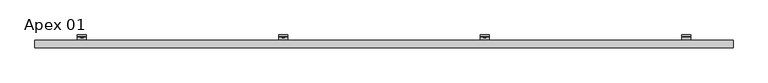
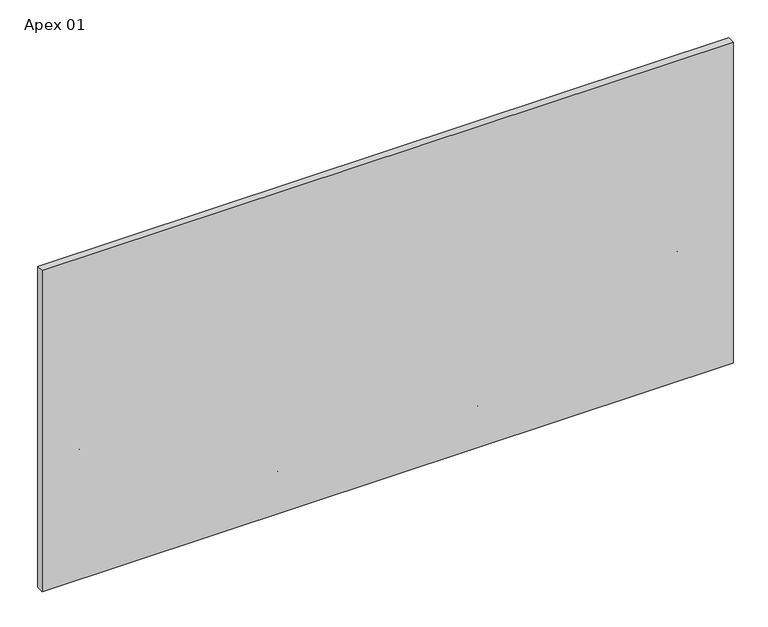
"""IFC4 building model written with IfcOpenShell, lengths in millimetres: plate geometry, Single-Panel-Perforated-Amico_Architectural : Apex 01."""

from ifc_helpers import new_model, si_unit, point, frame, frame_2d, origin, place, context, project, spatial, polyline, circle_curve, trimmed, segment, composite_curve, outline, extrude, source, transform, mapped, element, save
from ifc_brep_helpers import plane_surface, cylinder_surface, revolved_surface, advanced_brep


def apex_01_c70d3192(model_context):
    return source(origin(), model_context, "Body", "SolidModel", [
        advanced_brep(
        [(1289.05, -47.625, 560.1885535), (1289.05, -51.2819443, 552.5265211), (1289.05, -89.5163624, 525.7544933), (1289.05, -92.9330442, 529.1711751), (1289.05, -54.3526876, 556.1854316), (1289.05, -52.4002, 560.1886244), (1289.05, -52.4002, 594.3812386), (1289.05, -47.625, 594.3812386), (1327.15, -47.625, 560.1885535), (1327.15, -47.625, 594.3812386), (1327.15, -52.4002, 594.3812386), (1327.15, -52.4002, 560.1886244), (1327.15, -54.3526876, 556.1854316), (1327.15, -92.9330442, 529.1711751), (1327.15, -89.5163624, 525.7544933), (1327.15, -51.2819443, 552.5265211), (1314.8411889, -52.4002, 580.3360224), (1314.8411889, -52.4002, 573.9860224), (1298.6133287, -52.4002, 573.9860224), (1298.6133287, -52.4002, 580.3360224), (1314.8411889, -47.625, 573.9860224), (1314.8411889, -47.625, 580.3360224), (1298.6133287, -47.625, 580.3360224), (1298.6133287, -47.625, 573.9860224)],
        [
            (0, 1, circle_curve(frame((1289.05, -57.4802202, 560.1885535), z_axis=(-1.0, 0.0, 0.0), x_axis=(0.0, -1.0, 0.0)), 9.8552202)),
            (1, 2),
            (2, 3),
            (3, 4),
            (4, 5, circle_curve(frame((1289.05, -57.4803246, 560.1886244), z_axis=(1.0, 0.0, 0.0), x_axis=(0.0, -1.0, 0.0)), 5.0801246)),
            (5, 6),
            (6, 7),
            (7, 0),
            (8, 9),
            (9, 10),
            (10, 11),
            (11, 12, circle_curve(frame((1327.15, -57.4803246, 560.1886244), z_axis=(-1.0, 0.0, 0.0), x_axis=(0.0, -1.0, 0.0)), 5.0801246)),
            (12, 13),
            (13, 14),
            (14, 15),
            (15, 8, circle_curve(frame((1327.15, -57.4802202, 560.1885535), z_axis=(1.0, 0.0, 0.0), x_axis=(0.0, -1.0, 0.0)), 9.8552202)),
            (4, 12),
            (11, 5),
            (10, 6),
            (16, 17, circle_curve(frame((1314.8411889, -52.4002, 577.1610224), z_axis=(0.0, 1.0, 0.0), x_axis=(0.0, 0.0, -1.0)), 3.175)),
            (17, 18),
            (18, 19, circle_curve(frame((1298.6133287, -52.4002, 577.1610224), z_axis=(0.0, 1.0, 0.0), x_axis=(0.0, 0.0, -1.0)), 3.175)),
            (19, 16),
            (9, 7),
            (8, 0),
            (20, 21, circle_curve(frame((1314.8411889, -47.625, 577.1610224), z_axis=(0.0, -1.0, 0.0), x_axis=(0.0, 0.0, -1.0)), 3.175)),
            (21, 22),
            (22, 23, circle_curve(frame((1298.6133287, -47.625, 577.1610224), z_axis=(0.0, -1.0, 0.0), x_axis=(0.0, 0.0, -1.0)), 3.175)),
            (23, 20),
            (15, 1),
            (20, 17),
            (16, 21),
            (19, 22),
            (18, 23),
            (14, 2),
            (13, 3),
        ],
        [
            plane_surface(frame((1289.05, -67.3354404, 560.1885535), z_axis=(-1.0, 0.0, 0.0), x_axis=(0.0, 0.0, 1.0))),
            plane_surface(frame((1327.15, -67.3354404, 560.1885535), z_axis=(1.0, 0.0, 0.0), x_axis=(0.0, 0.0, -1.0))),
            revolved_surface(polyline([(1327.15, -62.5604492, 560.1886244), (1289.05, -62.5604492, 560.1886244)]), (1327.15, -57.4803246, 560.1886244), (1.0, 0.0, 0.0)),
            plane_surface(frame((1289.05, -52.4002, 560.1886244), z_axis=(0.0, -1.0, 0.0), x_axis=(1.0, 0.0, 0.0))),
            plane_surface(frame((1289.05, -52.4002, 594.3812386), z_axis=(0.0, 0.0, 1.0), x_axis=(1.0, 0.0, 0.0))),
            plane_surface(frame((1289.05, -47.625, 594.3812386), z_axis=(0.0, 1.0, 6.99569853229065e-12), x_axis=(1.0, 0.0, 0.0))),
            cylinder_surface(frame((1327.15, -57.4802202, 560.1885535), z_axis=(-1.0, 0.0, 0.0), x_axis=(0.0, -1.0, 0.0)), 9.8552202),
            revolved_surface(polyline([(1314.8411889, -52.4002, 573.9860224), (1314.8411889, -47.625, 573.9860224)]), (1314.8411889, -25.6669948, 577.1610224), (0.0, -1.0, 0.0)),
            plane_surface(frame((1314.8411889, -86.677982, 580.3360224), z_axis=(0.0, 0.0, -1.0), x_axis=(0.0, 1.0, 0.0))),
            revolved_surface(polyline([(1298.6133287, -52.4002, 573.9860224), (1298.6133287, -47.625, 573.9860224)]), (1298.6133287, -25.6669948, 577.1610224), (0.0, -1.0, 0.0)),
            plane_surface(frame((1298.6133287, -86.677982, 573.9860224), z_axis=(-2.7237733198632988e-11, 0.0, 1.0), x_axis=(0.0, 1.0, 0.0))),
            plane_surface(frame((1289.05, -51.2819443, 552.5265211), z_axis=(0.0, 0.5735764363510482, -0.8191520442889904), x_axis=(1.0, 0.0, 0.0))),
            plane_surface(frame((1289.05, -89.5163624, 525.7544933), z_axis=(0.0, -0.7071067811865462, -0.7071067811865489), x_axis=(1.0, 0.0, 0.0))),
            plane_surface(frame((1289.05, -92.9330442, 529.1711751), z_axis=(0.0, -0.5735764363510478, 0.8191520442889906), x_axis=(1.0, 0.0, 0.0))),
        ],
        [
            (0, [[1, 2, 3, 4, 5, 6, 7, 8]]),
            (1, [[9, 10, 11, 12, 13, 14, 15, 16]]),
            (2, [[-5, 17, -12, 18]]),
            (3, [[-6, -18, -11, 19], [20, 21, 22, 23]]),
            (4, [[-7, -19, -10, 24]]),
            (5, [[-8, -24, -9, 25], [26, 27, 28, 29]]),
            (6, [[-1, -25, -16, 30]]),
            (7, [[31, -20, 32, -26]]),
            (8, [[-32, -23, 33, -27]]),
            (9, [[-33, -22, 34, -28]]),
            (10, [[-31, -29, -34, -21]]),
            (11, [[-2, -30, -15, 35]]),
            (12, [[-3, -35, -14, 36]]),
            (13, [[-4, -36, -13, -17]]),
        ],
    ),
        extrude(outline(polyline([(577.3378656, 431.0153368), (572.9921531, 433.524335), (572.9921531, 438.5423316), (577.3378656, 441.0513299), (581.6835781, 438.5423316), (581.6835781, 433.524335), (577.3378656, 431.0153368)])), frame((0.0, -58.7607779, 0.0), z_axis=(0.0, 1.0, 0.0), x_axis=(0.0, 0.0, 1.0)), (0.0, 0.0, 1.0), 11.1357779),
        extrude(outline(composite_curve([segment(trimmed(circle_curve(frame_2d((577.4311726, 436.0333333)), 6.35), [point((577.4311726, 442.3833333))], [point((577.4311726, 429.6833333))], False, "CARTESIAN"), True, "CONTINUOUS"), segment(trimmed(circle_curve(frame_2d((577.4311726, 436.0333333)), 6.35), [point((577.4311726, 429.6833333))], [point((577.4311726, 442.3833333))], False, "CARTESIAN"), True, "CONTINUOUS")], self_intersect=False)), frame((0.0, -57.0817743, 0.0), z_axis=(0.0, 1.0, 0.0), x_axis=(0.0, 0.0, 1.0)), (0.0, 0.0, 1.0), 9.4567743),
        advanced_brep(
        [(416.9833333, -47.625, 560.1885535), (416.9833333, -51.2819443, 552.5265211), (416.9833333, -89.5163624, 525.7544933), (416.9833333, -92.9330442, 529.1711751), (416.9833333, -54.3526876, 556.1854316), (416.9833333, -52.4002, 560.1886244), (416.9833333, -52.4002, 594.3812386), (416.9833333, -47.625, 594.3812386), (455.0833333, -47.625, 560.1885535), (455.0833333, -47.625, 594.3812386), (455.0833333, -52.4002, 594.3812386), (455.0833333, -52.4002, 560.1886244), (455.0833333, -54.3526876, 556.1854316), (455.0833333, -92.9330442, 529.1711751), (455.0833333, -89.5163624, 525.7544933), (455.0833333, -51.2819443, 552.5265211), (442.7745222, -52.4002, 580.3360224), (442.7745222, -52.4002, 573.9860224), (426.546662, -52.4002, 573.9860224), (426.546662, -52.4002, 580.3360224), (442.7745222, -47.625, 573.9860224), (442.7745222, -47.625, 580.3360224), (426.546662, -47.625, 580.3360224), (426.546662, -47.625, 573.9860224)],
        [
            (0, 1, circle_curve(frame((416.9833333, -57.4802202, 560.1885535), z_axis=(-1.0, 0.0, 0.0), x_axis=(0.0, -1.0, 0.0)), 9.8552202)),
            (1, 2),
            (2, 3),
            (3, 4),
            (4, 5, circle_curve(frame((416.9833333, -57.4803246, 560.1886244), z_axis=(1.0, 0.0, 0.0), x_axis=(0.0, -1.0, 0.0)), 5.0801246)),
            (5, 6),
            (6, 7),
            (7, 0),
            (8, 9),
            (9, 10),
            (10, 11),
            (11, 12, circle_curve(frame((455.0833333, -57.4803246, 560.1886244), z_axis=(-1.0, 0.0, 0.0), x_axis=(0.0, -1.0, 0.0)), 5.0801246)),
            (12, 13),
            (13, 14),
            (14, 15),
            (15, 8, circle_curve(frame((455.0833333, -57.4802202, 560.1885535), z_axis=(1.0, 0.0, 0.0), x_axis=(0.0, -1.0, 0.0)), 9.8552202)),
            (4, 12),
            (11, 5),
            (10, 6),
            (16, 17, circle_curve(frame((442.7745222, -52.4002, 577.1610224), z_axis=(0.0, 1.0, 0.0), x_axis=(0.0, 0.0, -1.0)), 3.175)),
            (17, 18),
            (18, 19, circle_curve(frame((426.546662, -52.4002, 577.1610224), z_axis=(0.0, 1.0, 0.0), x_axis=(0.0, 0.0, -1.0)), 3.175)),
            (19, 16),
            (9, 7),
            (8, 0),
            (20, 21, circle_curve(frame((442.7745222, -47.625, 577.1610224), z_axis=(0.0, -1.0, 0.0), x_axis=(0.0, 0.0, -1.0)), 3.175)),
            (21, 22),
            (22, 23, circle_curve(frame((426.546662, -47.625, 577.1610224), z_axis=(0.0, -1.0, 0.0), x_axis=(0.0, 0.0, -1.0)), 3.175)),
            (23, 20),
            (15, 1),
            (20, 17),
            (16, 21),
            (19, 22),
            (18, 23),
            (14, 2),
            (13, 3),
        ],
        [
            plane_surface(frame((416.9833333, -67.3354404, 560.1885535), z_axis=(-1.0, 0.0, 0.0), x_axis=(0.0, 0.0, 1.0))),
            plane_surface(frame((455.0833333, -67.3354404, 560.1885535), z_axis=(1.0, 0.0, 0.0), x_axis=(0.0, 0.0, -1.0))),
            revolved_surface(polyline([(455.0833333, -62.5604492, 560.1886244), (416.9833333, -62.5604492, 560.1886244)]), (455.0833333, -57.4803246, 560.1886244), (1.0, 0.0, 0.0)),
            plane_surface(frame((416.9833333, -52.4002, 560.1886244), z_axis=(0.0, -1.0, 0.0), x_axis=(1.0, 0.0, 0.0))),
            plane_surface(frame((416.9833333, -52.4002, 594.3812386), z_axis=(0.0, 0.0, 1.0), x_axis=(1.0, 0.0, 0.0))),
            plane_surface(frame((416.9833333, -47.625, 594.3812386), z_axis=(0.0, 1.0, 6.99569853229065e-12), x_axis=(1.0, 0.0, 0.0))),
            cylinder_surface(frame((455.0833333, -57.4802202, 560.1885535), z_axis=(-1.0, 0.0, 0.0), x_axis=(0.0, -1.0, 0.0)), 9.8552202),
            revolved_surface(polyline([(442.7745222, -52.4002, 573.9860224), (442.7745222, -47.625, 573.9860224)]), (442.7745222, -25.6669948, 577.1610224), (0.0, -1.0, 0.0)),
            plane_surface(frame((442.7745222, -86.677982, 580.3360224), z_axis=(0.0, 0.0, -1.0), x_axis=(0.0, 1.0, 0.0))),
            revolved_surface(polyline([(426.546662, -52.4002, 573.9860224), (426.546662, -47.625, 573.9860224)]), (426.546662, -25.6669948, 577.1610224), (0.0, -1.0, 0.0)),
            plane_surface(frame((426.546662, -86.677982, 573.9860224), z_axis=(-2.7237733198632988e-11, 0.0, 1.0), x_axis=(0.0, 1.0, 0.0))),
            plane_surface(frame((416.9833333, -51.2819443, 552.5265211), z_axis=(0.0, 0.5735764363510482, -0.8191520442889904), x_axis=(1.0, 0.0, 0.0))),
            plane_surface(frame((416.9833333, -89.5163624, 525.7544933), z_axis=(0.0, -0.7071067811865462, -0.7071067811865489), x_axis=(1.0, 0.0, 0.0))),
            plane_surface(frame((416.9833333, -92.9330442, 529.1711751), z_axis=(0.0, -0.5735764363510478, 0.8191520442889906), x_axis=(1.0, 0.0, 0.0))),
        ],
        [
            (0, [[1, 2, 3, 4, 5, 6, 7, 8]]),
            (1, [[9, 10, 11, 12, 13, 14, 15, 16]]),
            (2, [[-5, 17, -12, 18]]),
            (3, [[-6, -18, -11, 19], [20, 21, 22, 23]]),
            (4, [[-7, -19, -10, 24]]),
            (5, [[-8, -24, -9, 25], [26, 27, 28, 29]]),
            (6, [[-1, -25, -16, 30]]),
            (7, [[31, -20, 32, -26]]),
            (8, [[-32, -23, 33, -27]]),
            (9, [[-33, -22, 34, -28]]),
            (10, [[-31, -29, -34, -21]]),
            (11, [[-2, -30, -15, 35]]),
            (12, [[-3, -35, -14, 36]]),
            (13, [[-4, -36, -13, -17]]),
        ],
    ),
        extrude(outline(polyline([(577.3378656, -441.0513299), (572.9921531, -438.5423316), (572.9921531, -433.524335), (577.3378656, -431.0153368), (581.6835781, -433.524335), (581.6835781, -438.5423316), (577.3378656, -441.0513299)])), frame((0.0, -58.7607779, 0.0), z_axis=(0.0, 1.0, 0.0), x_axis=(0.0, 0.0, 1.0)), (0.0, 0.0, 1.0), 11.1357779),
        extrude(outline(composite_curve([segment(trimmed(circle_curve(frame_2d((577.4311726, -436.0333333)), 6.35), [point((577.4311726, -429.6833333))], [point((577.4311726, -442.3833333))], False, "CARTESIAN"), True, "CONTINUOUS"), segment(trimmed(circle_curve(frame_2d((577.4311726, -436.0333333)), 6.35), [point((577.4311726, -442.3833333))], [point((577.4311726, -429.6833333))], False, "CARTESIAN"), True, "CONTINUOUS")], self_intersect=False)), frame((0.0, -57.0817743, 0.0), z_axis=(0.0, 1.0, 0.0), x_axis=(0.0, 0.0, 1.0)), (0.0, 0.0, 1.0), 9.4567743),
        advanced_brep(
        [(-455.0833333, -47.625, 560.1885535), (-455.0833333, -51.2819443, 552.5265211), (-455.0833333, -89.5163624, 525.7544933), (-455.0833333, -92.9330442, 529.1711751), (-455.0833333, -54.3526876, 556.1854316), (-455.0833333, -52.4002, 560.1886244), (-455.0833333, -52.4002, 594.3812386), (-455.0833333, -47.625, 594.3812386), (-416.9833333, -47.625, 560.1885535), (-416.9833333, -47.625, 594.3812386), (-416.9833333, -52.4002, 594.3812386), (-416.9833333, -52.4002, 560.1886244), (-416.9833333, -54.3526876, 556.1854316), (-416.9833333, -92.9330442, 529.1711751), (-416.9833333, -89.5163624, 525.7544933), (-416.9833333, -51.2819443, 552.5265211), (-429.2921444, -52.4002, 580.3360224), (-429.2921444, -52.4002, 573.9860224), (-445.5200046, -52.4002, 573.9860224), (-445.5200046, -52.4002, 580.3360224), (-429.2921444, -47.625, 573.9860224), (-429.2921444, -47.625, 580.3360224), (-445.5200046, -47.625, 580.3360224), (-445.5200046, -47.625, 573.9860224)],
        [
            (0, 1, circle_curve(frame((-455.0833333, -57.4802202, 560.1885535), z_axis=(-1.0, 0.0, 0.0), x_axis=(0.0, -1.0, 0.0)), 9.8552202)),
            (1, 2),
            (2, 3),
            (3, 4),
            (4, 5, circle_curve(frame((-455.0833333, -57.4803246, 560.1886244), z_axis=(1.0, 0.0, 0.0), x_axis=(0.0, -1.0, 0.0)), 5.0801246)),
            (5, 6),
            (6, 7),
            (7, 0),
            (8, 9),
            (9, 10),
            (10, 11),
            (11, 12, circle_curve(frame((-416.9833333, -57.4803246, 560.1886244), z_axis=(-1.0, 0.0, 0.0), x_axis=(0.0, -1.0, 0.0)), 5.0801246)),
            (12, 13),
            (13, 14),
            (14, 15),
            (15, 8, circle_curve(frame((-416.9833333, -57.4802202, 560.1885535), z_axis=(1.0, 0.0, 0.0), x_axis=(0.0, -1.0, 0.0)), 9.8552202)),
            (4, 12),
            (11, 5),
            (10, 6),
            (16, 17, circle_curve(frame((-429.2921444, -52.4002, 577.1610224), z_axis=(0.0, 1.0, 0.0), x_axis=(0.0, 0.0, -1.0)), 3.175)),
            (17, 18),
            (18, 19, circle_curve(frame((-445.5200046, -52.4002, 577.1610224), z_axis=(0.0, 1.0, 0.0), x_axis=(0.0, 0.0, -1.0)), 3.175)),
            (19, 16),
            (9, 7),
            (8, 0),
            (20, 21, circle_curve(frame((-429.2921444, -47.625, 577.1610224), z_axis=(0.0, -1.0, 0.0), x_axis=(0.0, 0.0, -1.0)), 3.175)),
            (21, 22),
            (22, 23, circle_curve(frame((-445.5200046, -47.625, 577.1610224), z_axis=(0.0, -1.0, 0.0), x_axis=(0.0, 0.0, -1.0)), 3.175)),
            (23, 20),
            (15, 1),
            (20, 17),
            (16, 21),
            (19, 22),
            (18, 23),
            (14, 2),
            (13, 3),
        ],
        [
            plane_surface(frame((-455.0833333, -67.3354404, 560.1885535), z_axis=(-1.0, 0.0, 0.0), x_axis=(0.0, 0.0, 1.0))),
            plane_surface(frame((-416.9833333, -67.3354404, 560.1885535), z_axis=(1.0, 0.0, 0.0), x_axis=(0.0, 0.0, -1.0))),
            revolved_surface(polyline([(-416.9833333, -62.5604492, 560.1886244), (-455.0833333, -62.5604492, 560.1886244)]), (-416.9833333, -57.4803246, 560.1886244), (1.0, 0.0, 0.0)),
            plane_surface(frame((-455.0833333, -52.4002, 560.1886244), z_axis=(0.0, -1.0, 0.0), x_axis=(1.0, 0.0, 0.0))),
            plane_surface(frame((-455.0833333, -52.4002, 594.3812386), z_axis=(0.0, 0.0, 1.0), x_axis=(1.0, 0.0, 0.0))),
            plane_surface(frame((-455.0833333, -47.625, 594.3812386), z_axis=(0.0, 1.0, 6.99569853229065e-12), x_axis=(1.0, 0.0, 0.0))),
            cylinder_surface(frame((-416.9833333, -57.4802202, 560.1885535), z_axis=(-1.0, 0.0, 0.0), x_axis=(0.0, -1.0, 0.0)), 9.8552202),
            revolved_surface(polyline([(-429.2921444, -52.4002, 573.9860224), (-429.2921444, -47.625, 573.9860224)]), (-429.2921444, -25.6669948, 577.1610224), (0.0, -1.0, 0.0)),
            plane_surface(frame((-429.2921444, -86.677982, 580.3360224), z_axis=(0.0, 0.0, -1.0), x_axis=(0.0, 1.0, 0.0))),
            revolved_surface(polyline([(-445.5200046, -52.4002, 573.9860224), (-445.5200046, -47.625, 573.9860224)]), (-445.5200046, -25.6669948, 577.1610224), (0.0, -1.0, 0.0)),
            plane_surface(frame((-445.5200046, -86.677982, 573.9860224), z_axis=(-2.7237733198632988e-11, 0.0, 1.0), x_axis=(0.0, 1.0, 0.0))),
            plane_surface(frame((-455.0833333, -51.2819443, 552.5265211), z_axis=(0.0, 0.5735764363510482, -0.8191520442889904), x_axis=(1.0, 0.0, 0.0))),
            plane_surface(frame((-455.0833333, -89.5163624, 525.7544933), z_axis=(0.0, -0.7071067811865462, -0.7071067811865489), x_axis=(1.0, 0.0, 0.0))),
            plane_surface(frame((-455.0833333, -92.9330442, 529.1711751), z_axis=(0.0, -0.5735764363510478, 0.8191520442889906), x_axis=(1.0, 0.0, 0.0))),
        ],
        [
            (0, [[1, 2, 3, 4, 5, 6, 7, 8]]),
            (1, [[9, 10, 11, 12, 13, 14, 15, 16]]),
            (2, [[-5, 17, -12, 18]]),
            (3, [[-6, -18, -11, 19], [20, 21, 22, 23]]),
            (4, [[-7, -19, -10, 24]]),
            (5, [[-8, -24, -9, 25], [26, 27, 28, 29]]),
            (6, [[-1, -25, -16, 30]]),
            (7, [[31, -20, 32, -26]]),
            (8, [[-32, -23, 33, -27]]),
            (9, [[-33, -22, 34, -28]]),
            (10, [[-31, -29, -34, -21]]),
            (11, [[-2, -30, -15, 35]]),
            (12, [[-3, -35, -14, 36]]),
            (13, [[-4, -36, -13, -17]]),
        ],
    ),
        extrude(outline(polyline([(577.3378656, -1313.1179966), (572.9921531, -1310.6089983), (572.9921531, -1305.5910017), (577.3378656, -1303.0820034), (581.6835781, -1305.5910017), (581.6835781, -1310.6089983), (577.3378656, -1313.1179966)])), frame((0.0, -58.7607779, 0.0), z_axis=(0.0, 1.0, 0.0), x_axis=(0.0, 0.0, 1.0)), (0.0, 0.0, 1.0), 11.1357779),
        extrude(outline(composite_curve([segment(trimmed(circle_curve(frame_2d((577.4311726, -1308.1)), 6.35), [point((577.4311726, -1301.75))], [point((577.4311726, -1314.45))], False, "CARTESIAN"), True, "CONTINUOUS"), segment(trimmed(circle_curve(frame_2d((577.4311726, -1308.1)), 6.35), [point((577.4311726, -1314.45))], [point((577.4311726, -1301.75))], False, "CARTESIAN"), True, "CONTINUOUS")], self_intersect=False)), frame((0.0, -57.0817743, 0.0), z_axis=(0.0, 1.0, 0.0), x_axis=(0.0, 0.0, 1.0)), (0.0, 0.0, 1.0), 9.4567743),
        advanced_brep(
        [(-1327.15, -47.625, 560.1885535), (-1327.15, -51.2819443, 552.5265211), (-1327.15, -89.5163624, 525.7544933), (-1327.15, -92.9330442, 529.1711751), (-1327.15, -54.3526876, 556.1854316), (-1327.15, -52.4002, 560.1886244), (-1327.15, -52.4002, 594.3812386), (-1327.15, -47.625, 594.3812386), (-1289.05, -47.625, 560.1885535), (-1289.05, -47.625, 594.3812386), (-1289.05, -52.4002, 594.3812386), (-1289.05, -52.4002, 560.1886244), (-1289.05, -54.3526876, 556.1854316), (-1289.05, -92.9330442, 529.1711751), (-1289.05, -89.5163624, 525.7544933), (-1289.05, -51.2819443, 552.5265211), (-1301.3588111, -52.4002, 580.3360224), (-1301.3588111, -52.4002, 573.9860224), (-1317.5866713, -52.4002, 573.9860224), (-1317.5866713, -52.4002, 580.3360224), (-1301.3588111, -47.625, 573.9860224), (-1301.3588111, -47.625, 580.3360224), (-1317.5866713, -47.625, 580.3360224), (-1317.5866713, -47.625, 573.9860224)],
        [
            (0, 1, circle_curve(frame((-1327.15, -57.4802202, 560.1885535), z_axis=(-1.0, 0.0, 0.0), x_axis=(0.0, -1.0, 0.0)), 9.8552202)),
            (1, 2),
            (2, 3),
            (3, 4),
            (4, 5, circle_curve(frame((-1327.15, -57.4803246, 560.1886244), z_axis=(1.0, 0.0, 0.0), x_axis=(0.0, -1.0, 0.0)), 5.0801246)),
            (5, 6),
            (6, 7),
            (7, 0),
            (8, 9),
            (9, 10),
            (10, 11),
            (11, 12, circle_curve(frame((-1289.05, -57.4803246, 560.1886244), z_axis=(-1.0, 0.0, 0.0), x_axis=(0.0, -1.0, 0.0)), 5.0801246)),
            (12, 13),
            (13, 14),
            (14, 15),
            (15, 8, circle_curve(frame((-1289.05, -57.4802202, 560.1885535), z_axis=(1.0, 0.0, 0.0), x_axis=(0.0, -1.0, 0.0)), 9.8552202)),
            (4, 12),
            (11, 5),
            (10, 6),
            (16, 17, circle_curve(frame((-1301.3588111, -52.4002, 577.1610224), z_axis=(0.0, 1.0, 0.0), x_axis=(0.0, 0.0, -1.0)), 3.175)),
            (17, 18),
            (18, 19, circle_curve(frame((-1317.5866713, -52.4002, 577.1610224), z_axis=(0.0, 1.0, 0.0), x_axis=(0.0, 0.0, -1.0)), 3.175)),
            (19, 16),
            (9, 7),
            (8, 0),
            (20, 21, circle_curve(frame((-1301.3588111, -47.625, 577.1610224), z_axis=(0.0, -1.0, 0.0), x_axis=(0.0, 0.0, -1.0)), 3.175)),
            (21, 22),
            (22, 23, circle_curve(frame((-1317.5866713, -47.625, 577.1610224), z_axis=(0.0, -1.0, 0.0), x_axis=(0.0, 0.0, -1.0)), 3.175)),
            (23, 20),
            (15, 1),
            (20, 17),
            (16, 21),
            (19, 22),
            (18, 23),
            (14, 2),
            (13, 3),
        ],
        [
            plane_surface(frame((-1327.15, -67.3354404, 560.1885535), z_axis=(-1.0, 0.0, 0.0), x_axis=(0.0, 0.0, 1.0))),
            plane_surface(frame((-1289.05, -67.3354404, 560.1885535), z_axis=(1.0, 0.0, 0.0), x_axis=(0.0, 0.0, -1.0))),
            revolved_surface(polyline([(-1289.05, -62.5604492, 560.1886244), (-1327.15, -62.5604492, 560.1886244)]), (-1289.05, -57.4803246, 560.1886244), (1.0, 0.0, 0.0)),
            plane_surface(frame((-1327.15, -52.4002, 560.1886244), z_axis=(0.0, -1.0, 0.0), x_axis=(1.0, 0.0, 0.0))),
            plane_surface(frame((-1327.15, -52.4002, 594.3812386), z_axis=(0.0, 0.0, 1.0), x_axis=(1.0, 0.0, 0.0))),
            plane_surface(frame((-1327.15, -47.625, 594.3812386), z_axis=(0.0, 1.0, 6.99569853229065e-12), x_axis=(1.0, 0.0, 0.0))),
            cylinder_surface(frame((-1289.05, -57.4802202, 560.1885535), z_axis=(-1.0, 0.0, 0.0), x_axis=(0.0, -1.0, 0.0)), 9.8552202),
            revolved_surface(polyline([(-1301.3588111, -52.4002, 573.9860224), (-1301.3588111, -47.625, 573.9860224)]), (-1301.3588111, -25.6669948, 577.1610224), (0.0, -1.0, 0.0)),
            plane_surface(frame((-1301.3588111, -86.677982, 580.3360224), z_axis=(0.0, 0.0, -1.0), x_axis=(0.0, 1.0, 0.0))),
            revolved_surface(polyline([(-1317.5866713, -52.4002, 573.9860224), (-1317.5866713, -47.625, 573.9860224)]), (-1317.5866713, -25.6669948, 577.1610224), (0.0, -1.0, 0.0)),
            plane_surface(frame((-1317.5866713, -86.677982, 573.9860224), z_axis=(-2.7237733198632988e-11, 0.0, 1.0), x_axis=(0.0, 1.0, 0.0))),
            plane_surface(frame((-1327.15, -51.2819443, 552.5265211), z_axis=(0.0, 0.5735764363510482, -0.8191520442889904), x_axis=(1.0, 0.0, 0.0))),
            plane_surface(frame((-1327.15, -89.5163624, 525.7544933), z_axis=(0.0, -0.7071067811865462, -0.7071067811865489), x_axis=(1.0, 0.0, 0.0))),
            plane_surface(frame((-1327.15, -92.9330442, 529.1711751), z_axis=(0.0, -0.5735764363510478, 0.8191520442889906), x_axis=(1.0, 0.0, 0.0))),
        ],
        [
            (0, [[1, 2, 3, 4, 5, 6, 7, 8]]),
            (1, [[9, 10, 11, 12, 13, 14, 15, 16]]),
            (2, [[-5, 17, -12, 18]]),
            (3, [[-6, -18, -11, 19], [20, 21, 22, 23]]),
            (4, [[-7, -19, -10, 24]]),
            (5, [[-8, -24, -9, 25], [26, 27, 28, 29]]),
            (6, [[-1, -25, -16, 30]]),
            (7, [[31, -20, 32, -26]]),
            (8, [[-32, -23, 33, -27]]),
            (9, [[-33, -22, 34, -28]]),
            (10, [[-31, -29, -34, -21]]),
            (11, [[-2, -30, -15, 35]]),
            (12, [[-3, -35, -14, 36]]),
            (13, [[-4, -36, -13, -17]]),
        ],
    ),
        extrude(outline(polyline([(166.7045323, 1303.0820034), (162.3588197, 1305.5910017), (162.3588197, 1310.6089983), (166.7045323, 1313.1179966), (171.0502448, 1310.6089983), (171.0502448, 1305.5910017), (166.7045323, 1303.0820034)])), frame((0.0, -58.7607779, 0.0), z_axis=(0.0, 1.0, 0.0), x_axis=(0.0, 0.0, 1.0)), (0.0, 0.0, 1.0), 11.1357779),
        extrude(outline(composite_curve([segment(trimmed(circle_curve(frame_2d((166.7978392, 1308.1)), 6.35), [point((166.7978392, 1314.45))], [point((166.7978392, 1301.75))], False, "CARTESIAN"), True, "CONTINUOUS"), segment(trimmed(circle_curve(frame_2d((166.7978392, 1308.1)), 6.35), [point((166.7978392, 1301.75))], [point((166.7978392, 1314.45))], False, "CARTESIAN"), True, "CONTINUOUS")], self_intersect=False)), frame((0.0, -57.0817743, 0.0), z_axis=(0.0, 1.0, 0.0), x_axis=(0.0, 0.0, 1.0)), (0.0, 0.0, 1.0), 9.4567743),
        advanced_brep(
        [(1289.05, -47.625, 149.5552202), (1289.05, -51.2819443, 141.8931877), (1289.05, -89.5163624, 115.12116), (1289.05, -92.9330442, 118.5378418), (1289.05, -54.3526876, 145.5520983), (1289.05, -52.4002, 149.5552911), (1289.05, -52.4002, 183.7479053), (1289.05, -47.625, 183.7479053), (1327.15, -47.625, 149.5552202), (1327.15, -47.625, 183.7479053), (1327.15, -52.4002, 183.7479053), (1327.15, -52.4002, 149.5552911), (1327.15, -54.3526876, 145.5520983), (1327.15, -92.9330442, 118.5378418), (1327.15, -89.5163624, 115.12116), (1327.15, -51.2819443, 141.8931877), (1314.8411889, -52.4002, 169.7026891), (1314.8411889, -52.4002, 163.3526891), (1298.6133287, -52.4002, 163.3526891), (1298.6133287, -52.4002, 169.7026891), (1314.8411889, -47.625, 163.3526891), (1314.8411889, -47.625, 169.7026891), (1298.6133287, -47.625, 169.7026891), (1298.6133287, -47.625, 163.3526891)],
        [
            (0, 1, circle_curve(frame((1289.05, -57.4802202, 149.5552202), z_axis=(-1.0, 0.0, 0.0), x_axis=(0.0, -1.0, 0.0)), 9.8552202)),
            (1, 2),
            (2, 3),
            (3, 4),
            (4, 5, circle_curve(frame((1289.05, -57.4803246, 149.5552911), z_axis=(1.0, 0.0, 0.0), x_axis=(0.0, -1.0, 0.0)), 5.0801246)),
            (5, 6),
            (6, 7),
            (7, 0),
            (8, 9),
            (9, 10),
            (10, 11),
            (11, 12, circle_curve(frame((1327.15, -57.4803246, 149.5552911), z_axis=(-1.0, 0.0, 0.0), x_axis=(0.0, -1.0, 0.0)), 5.0801246)),
            (12, 13),
            (13, 14),
            (14, 15),
            (15, 8, circle_curve(frame((1327.15, -57.4802202, 149.5552202), z_axis=(1.0, 0.0, 0.0), x_axis=(0.0, -1.0, 0.0)), 9.8552202)),
            (4, 12),
            (11, 5),
            (10, 6),
            (16, 17, circle_curve(frame((1314.8411889, -52.4002, 166.5276891), z_axis=(0.0, 1.0, 0.0), x_axis=(0.0, 0.0, -1.0)), 3.175)),
            (17, 18),
            (18, 19, circle_curve(frame((1298.6133287, -52.4002, 166.5276891), z_axis=(0.0, 1.0, 0.0), x_axis=(0.0, 0.0, -1.0)), 3.175)),
            (19, 16),
            (9, 7),
            (8, 0),
            (20, 21, circle_curve(frame((1314.8411889, -47.625, 166.5276891), z_axis=(0.0, -1.0, 0.0), x_axis=(0.0, 0.0, -1.0)), 3.175)),
            (21, 22),
            (22, 23, circle_curve(frame((1298.6133287, -47.625, 166.5276891), z_axis=(0.0, -1.0, 0.0), x_axis=(0.0, 0.0, -1.0)), 3.175)),
            (23, 20),
            (15, 1),
            (20, 17),
            (16, 21),
            (19, 22),
            (18, 23),
            (14, 2),
            (13, 3),
        ],
        [
            plane_surface(frame((1289.05, -67.3354404, 149.5552202), z_axis=(-1.0, 0.0, 0.0), x_axis=(0.0, 0.0, 1.0))),
            plane_surface(frame((1327.15, -67.3354404, 149.5552202), z_axis=(1.0, 0.0, 0.0), x_axis=(0.0, 0.0, -1.0))),
            revolved_surface(polyline([(1327.15, -62.5604492, 149.5552911), (1289.05, -62.5604492, 149.5552911)]), (1327.15, -57.4803246, 149.5552911), (1.0, 0.0, 0.0)),
            plane_surface(frame((1289.05, -52.4002, 149.5552911), z_axis=(0.0, -1.0, 0.0), x_axis=(1.0, 0.0, 0.0))),
            plane_surface(frame((1289.05, -52.4002, 183.7479053), z_axis=(0.0, 0.0, 1.0), x_axis=(1.0, 0.0, 0.0))),
            plane_surface(frame((1289.05, -47.625, 183.7479053), z_axis=(0.0, 1.0, 6.99569853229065e-12), x_axis=(1.0, 0.0, 0.0))),
            cylinder_surface(frame((1327.15, -57.4802202, 149.5552202), z_axis=(-1.0, 0.0, 0.0), x_axis=(0.0, -1.0, 0.0)), 9.8552202),
            revolved_surface(polyline([(1314.8411889, -52.4002, 163.3526891), (1314.8411889, -47.625, 163.3526891)]), (1314.8411889, -25.6669948, 166.5276891), (0.0, -1.0, 0.0)),
            plane_surface(frame((1314.8411889, -86.677982, 169.7026891), z_axis=(0.0, 0.0, -1.0), x_axis=(0.0, 1.0, 0.0))),
            revolved_surface(polyline([(1298.6133287, -52.4002, 163.3526891), (1298.6133287, -47.625, 163.3526891)]), (1298.6133287, -25.6669948, 166.5276891), (0.0, -1.0, 0.0)),
            plane_surface(frame((1298.6133287, -86.677982, 163.3526891), z_axis=(-2.723774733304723e-11, 0.0, 1.0), x_axis=(0.0, 1.0, 0.0))),
            plane_surface(frame((1289.05, -51.2819443, 141.8931877), z_axis=(0.0, 0.5735764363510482, -0.8191520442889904), x_axis=(1.0, 0.0, 0.0))),
            plane_surface(frame((1289.05, -89.5163624, 115.12116), z_axis=(0.0, -0.7071067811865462, -0.7071067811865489), x_axis=(1.0, 0.0, 0.0))),
            plane_surface(frame((1289.05, -92.9330442, 118.5378418), z_axis=(0.0, -0.5735764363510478, 0.8191520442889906), x_axis=(1.0, 0.0, 0.0))),
        ],
        [
            (0, [[1, 2, 3, 4, 5, 6, 7, 8]]),
            (1, [[9, 10, 11, 12, 13, 14, 15, 16]]),
            (2, [[-5, 17, -12, 18]]),
            (3, [[-6, -18, -11, 19], [20, 21, 22, 23]]),
            (4, [[-7, -19, -10, 24]]),
            (5, [[-8, -24, -9, 25], [26, 27, 28, 29]]),
            (6, [[-1, -25, -16, 30]]),
            (7, [[31, -20, 32, -26]]),
            (8, [[-32, -23, 33, -27]]),
            (9, [[-33, -22, 34, -28]]),
            (10, [[-31, -29, -34, -21]]),
            (11, [[-2, -30, -15, 35]]),
            (12, [[-3, -35, -14, 36]]),
            (13, [[-4, -36, -13, -17]]),
        ],
    ),
        extrude(outline(polyline([(166.7045323, 431.0153368), (162.3588197, 433.524335), (162.3588197, 438.5423316), (166.7045323, 441.0513299), (171.0502448, 438.5423316), (171.0502448, 433.524335), (166.7045323, 431.0153368)])), frame((0.0, -58.7607779, 0.0), z_axis=(0.0, 1.0, 0.0), x_axis=(0.0, 0.0, 1.0)), (0.0, 0.0, 1.0), 11.1357779),
        extrude(outline(composite_curve([segment(trimmed(circle_curve(frame_2d((166.7978392, 436.0333333)), 6.35), [point((166.7978392, 442.3833333))], [point((166.7978392, 429.6833333))], False, "CARTESIAN"), True, "CONTINUOUS"), segment(trimmed(circle_curve(frame_2d((166.7978392, 436.0333333)), 6.35), [point((166.7978392, 429.6833333))], [point((166.7978392, 442.3833333))], False, "CARTESIAN"), True, "CONTINUOUS")], self_intersect=False)), frame((0.0, -57.0817743, 0.0), z_axis=(0.0, 1.0, 0.0), x_axis=(0.0, 0.0, 1.0)), (0.0, 0.0, 1.0), 9.4567743),
        advanced_brep(
        [(416.9833333, -47.625, 149.5552202), (416.9833333, -51.2819443, 141.8931877), (416.9833333, -89.5163624, 115.12116), (416.9833333, -92.9330442, 118.5378418), (416.9833333, -54.3526876, 145.5520983), (416.9833333, -52.4002, 149.5552911), (416.9833333, -52.4002, 183.7479053), (416.9833333, -47.625, 183.7479053), (455.0833333, -47.625, 149.5552202), (455.0833333, -47.625, 183.7479053), (455.0833333, -52.4002, 183.7479053), (455.0833333, -52.4002, 149.5552911), (455.0833333, -54.3526876, 145.5520983), (455.0833333, -92.9330442, 118.5378418), (455.0833333, -89.5163624, 115.12116), (455.0833333, -51.2819443, 141.8931877), (442.7745222, -52.4002, 169.7026891), (442.7745222, -52.4002, 163.3526891), (426.546662, -52.4002, 163.3526891), (426.546662, -52.4002, 169.7026891), (442.7745222, -47.625, 163.3526891), (442.7745222, -47.625, 169.7026891), (426.546662, -47.625, 169.7026891), (426.546662, -47.625, 163.3526891)],
        [
            (0, 1, circle_curve(frame((416.9833333, -57.4802202, 149.5552202), z_axis=(-1.0, 0.0, 0.0), x_axis=(0.0, -1.0, 0.0)), 9.8552202)),
            (1, 2),
            (2, 3),
            (3, 4),
            (4, 5, circle_curve(frame((416.9833333, -57.4803246, 149.5552911), z_axis=(1.0, 0.0, 0.0), x_axis=(0.0, -1.0, 0.0)), 5.0801246)),
            (5, 6),
            (6, 7),
            (7, 0),
            (8, 9),
            (9, 10),
            (10, 11),
            (11, 12, circle_curve(frame((455.0833333, -57.4803246, 149.5552911), z_axis=(-1.0, 0.0, 0.0), x_axis=(0.0, -1.0, 0.0)), 5.0801246)),
            (12, 13),
            (13, 14),
            (14, 15),
            (15, 8, circle_curve(frame((455.0833333, -57.4802202, 149.5552202), z_axis=(1.0, 0.0, 0.0), x_axis=(0.0, -1.0, 0.0)), 9.8552202)),
            (4, 12),
            (11, 5),
            (10, 6),
            (16, 17, circle_curve(frame((442.7745222, -52.4002, 166.5276891), z_axis=(0.0, 1.0, 0.0), x_axis=(0.0, 0.0, -1.0)), 3.175)),
            (17, 18),
            (18, 19, circle_curve(frame((426.546662, -52.4002, 166.5276891), z_axis=(0.0, 1.0, 0.0), x_axis=(0.0, 0.0, -1.0)), 3.175)),
            (19, 16),
            (9, 7),
            (8, 0),
            (20, 21, circle_curve(frame((442.7745222, -47.625, 166.5276891), z_axis=(0.0, -1.0, 0.0), x_axis=(0.0, 0.0, -1.0)), 3.175)),
            (21, 22),
            (22, 23, circle_curve(frame((426.546662, -47.625, 166.5276891), z_axis=(0.0, -1.0, 0.0), x_axis=(0.0, 0.0, -1.0)), 3.175)),
            (23, 20),
            (15, 1),
            (20, 17),
            (16, 21),
            (19, 22),
            (18, 23),
            (14, 2),
            (13, 3),
        ],
        [
            plane_surface(frame((416.9833333, -67.3354404, 149.5552202), z_axis=(-1.0, 0.0, 0.0), x_axis=(0.0, 0.0, 1.0))),
            plane_surface(frame((455.0833333, -67.3354404, 149.5552202), z_axis=(1.0, 0.0, 0.0), x_axis=(0.0, 0.0, -1.0))),
            revolved_surface(polyline([(455.0833333, -62.5604492, 149.5552911), (416.9833333, -62.5604492, 149.5552911)]), (455.0833333, -57.4803246, 149.5552911), (1.0, 0.0, 0.0)),
            plane_surface(frame((416.9833333, -52.4002, 149.5552911), z_axis=(0.0, -1.0, 0.0), x_axis=(1.0, 0.0, 0.0))),
            plane_surface(frame((416.9833333, -52.4002, 183.7479053), z_axis=(0.0, 0.0, 1.0), x_axis=(1.0, 0.0, 0.0))),
            plane_surface(frame((416.9833333, -47.625, 183.7479053), z_axis=(0.0, 1.0, 6.99569853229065e-12), x_axis=(1.0, 0.0, 0.0))),
            cylinder_surface(frame((455.0833333, -57.4802202, 149.5552202), z_axis=(-1.0, 0.0, 0.0), x_axis=(0.0, -1.0, 0.0)), 9.8552202),
            revolved_surface(polyline([(442.7745222, -52.4002, 163.3526891), (442.7745222, -47.625, 163.3526891)]), (442.7745222, -25.6669948, 166.5276891), (0.0, -1.0, 0.0)),
            plane_surface(frame((442.7745222, -86.677982, 169.7026891), z_axis=(0.0, 0.0, -1.0), x_axis=(0.0, 1.0, 0.0))),
            revolved_surface(polyline([(426.546662, -52.4002, 163.3526891), (426.546662, -47.625, 163.3526891)]), (426.546662, -25.6669948, 166.5276891), (0.0, -1.0, 0.0)),
            plane_surface(frame((426.546662, -86.677982, 163.3526891), z_axis=(-2.723774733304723e-11, 0.0, 1.0), x_axis=(0.0, 1.0, 0.0))),
            plane_surface(frame((416.9833333, -51.2819443, 141.8931877), z_axis=(0.0, 0.5735764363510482, -0.8191520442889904), x_axis=(1.0, 0.0, 0.0))),
            plane_surface(frame((416.9833333, -89.5163624, 115.12116), z_axis=(0.0, -0.7071067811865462, -0.7071067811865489), x_axis=(1.0, 0.0, 0.0))),
            plane_surface(frame((416.9833333, -92.9330442, 118.5378418), z_axis=(0.0, -0.5735764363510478, 0.8191520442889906), x_axis=(1.0, 0.0, 0.0))),
        ],
        [
            (0, [[1, 2, 3, 4, 5, 6, 7, 8]]),
            (1, [[9, 10, 11, 12, 13, 14, 15, 16]]),
            (2, [[-5, 17, -12, 18]]),
            (3, [[-6, -18, -11, 19], [20, 21, 22, 23]]),
            (4, [[-7, -19, -10, 24]]),
            (5, [[-8, -24, -9, 25], [26, 27, 28, 29]]),
            (6, [[-1, -25, -16, 30]]),
            (7, [[31, -20, 32, -26]]),
            (8, [[-32, -23, 33, -27]]),
            (9, [[-33, -22, 34, -28]]),
            (10, [[-31, -29, -34, -21]]),
            (11, [[-2, -30, -15, 35]]),
            (12, [[-3, -35, -14, 36]]),
            (13, [[-4, -36, -13, -17]]),
        ],
    ),
        extrude(outline(polyline([(166.7045323, -441.0513299), (162.3588197, -438.5423316), (162.3588197, -433.524335), (166.7045323, -431.0153368), (171.0502448, -433.524335), (171.0502448, -438.5423316), (166.7045323, -441.0513299)])), frame((0.0, -58.7607779, 0.0), z_axis=(0.0, 1.0, 0.0), x_axis=(0.0, 0.0, 1.0)), (0.0, 0.0, 1.0), 11.1357779),
        extrude(outline(composite_curve([segment(trimmed(circle_curve(frame_2d((166.7978392, -436.0333333)), 6.35), [point((166.7978392, -429.6833333))], [point((166.7978392, -442.3833333))], False, "CARTESIAN"), True, "CONTINUOUS"), segment(trimmed(circle_curve(frame_2d((166.7978392, -436.0333333)), 6.35), [point((166.7978392, -442.3833333))], [point((166.7978392, -429.6833333))], False, "CARTESIAN"), True, "CONTINUOUS")], self_intersect=False)), frame((0.0, -57.0817743, 0.0), z_axis=(0.0, 1.0, 0.0), x_axis=(0.0, 0.0, 1.0)), (0.0, 0.0, 1.0), 9.4567743),
        advanced_brep(
        [(-455.0833333, -47.625, 149.5552202), (-455.0833333, -51.2819443, 141.8931877), (-455.0833333, -89.5163624, 115.12116), (-455.0833333, -92.9330442, 118.5378418), (-455.0833333, -54.3526876, 145.5520983), (-455.0833333, -52.4002, 149.5552911), (-455.0833333, -52.4002, 183.7479053), (-455.0833333, -47.625, 183.7479053), (-416.9833333, -47.625, 149.5552202), (-416.9833333, -47.625, 183.7479053), (-416.9833333, -52.4002, 183.7479053), (-416.9833333, -52.4002, 149.5552911), (-416.9833333, -54.3526876, 145.5520983), (-416.9833333, -92.9330442, 118.5378418), (-416.9833333, -89.5163624, 115.12116), (-416.9833333, -51.2819443, 141.8931877), (-429.2921444, -52.4002, 169.7026891), (-429.2921444, -52.4002, 163.3526891), (-445.5200046, -52.4002, 163.3526891), (-445.5200046, -52.4002, 169.7026891), (-429.2921444, -47.625, 163.3526891), (-429.2921444, -47.625, 169.7026891), (-445.5200046, -47.625, 169.7026891), (-445.5200046, -47.625, 163.3526891)],
        [
            (0, 1, circle_curve(frame((-455.0833333, -57.4802202, 149.5552202), z_axis=(-1.0, 0.0, 0.0), x_axis=(0.0, -1.0, 0.0)), 9.8552202)),
            (1, 2),
            (2, 3),
            (3, 4),
            (4, 5, circle_curve(frame((-455.0833333, -57.4803246, 149.5552911), z_axis=(1.0, 0.0, 0.0), x_axis=(0.0, -1.0, 0.0)), 5.0801246)),
            (5, 6),
            (6, 7),
            (7, 0),
            (8, 9),
            (9, 10),
            (10, 11),
            (11, 12, circle_curve(frame((-416.9833333, -57.4803246, 149.5552911), z_axis=(-1.0, 0.0, 0.0), x_axis=(0.0, -1.0, 0.0)), 5.0801246)),
            (12, 13),
            (13, 14),
            (14, 15),
            (15, 8, circle_curve(frame((-416.9833333, -57.4802202, 149.5552202), z_axis=(1.0, 0.0, 0.0), x_axis=(0.0, -1.0, 0.0)), 9.8552202)),
            (4, 12),
            (11, 5),
            (10, 6),
            (16, 17, circle_curve(frame((-429.2921444, -52.4002, 166.5276891), z_axis=(0.0, 1.0, 0.0), x_axis=(0.0, 0.0, -1.0)), 3.175)),
            (17, 18),
            (18, 19, circle_curve(frame((-445.5200046, -52.4002, 166.5276891), z_axis=(0.0, 1.0, 0.0), x_axis=(0.0, 0.0, -1.0)), 3.175)),
            (19, 16),
            (9, 7),
            (8, 0),
            (20, 21, circle_curve(frame((-429.2921444, -47.625, 166.5276891), z_axis=(0.0, -1.0, 0.0), x_axis=(0.0, 0.0, -1.0)), 3.175)),
            (21, 22),
            (22, 23, circle_curve(frame((-445.5200046, -47.625, 166.5276891), z_axis=(0.0, -1.0, 0.0), x_axis=(0.0, 0.0, -1.0)), 3.175)),
            (23, 20),
            (15, 1),
            (20, 17),
            (16, 21),
            (19, 22),
            (18, 23),
            (14, 2),
            (13, 3),
        ],
        [
            plane_surface(frame((-455.0833333, -67.3354404, 149.5552202), z_axis=(-1.0, 0.0, 0.0), x_axis=(0.0, 0.0, 1.0))),
            plane_surface(frame((-416.9833333, -67.3354404, 149.5552202), z_axis=(1.0, 0.0, 0.0), x_axis=(0.0, 0.0, -1.0))),
            revolved_surface(polyline([(-416.9833333, -62.5604492, 149.5552911), (-455.0833333, -62.5604492, 149.5552911)]), (-416.9833333, -57.4803246, 149.5552911), (1.0, 0.0, 0.0)),
            plane_surface(frame((-455.0833333, -52.4002, 149.5552911), z_axis=(0.0, -1.0, 0.0), x_axis=(1.0, 0.0, 0.0))),
            plane_surface(frame((-455.0833333, -52.4002, 183.7479053), z_axis=(0.0, 0.0, 1.0), x_axis=(1.0, 0.0, 0.0))),
            plane_surface(frame((-455.0833333, -47.625, 183.7479053), z_axis=(0.0, 1.0, 6.99569853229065e-12), x_axis=(1.0, 0.0, 0.0))),
            cylinder_surface(frame((-416.9833333, -57.4802202, 149.5552202), z_axis=(-1.0, 0.0, 0.0), x_axis=(0.0, -1.0, 0.0)), 9.8552202),
            revolved_surface(polyline([(-429.2921444, -52.4002, 163.3526891), (-429.2921444, -47.625, 163.3526891)]), (-429.2921444, -25.6669948, 166.5276891), (0.0, -1.0, 0.0)),
            plane_surface(frame((-429.2921444, -86.677982, 169.7026891), z_axis=(0.0, 0.0, -1.0), x_axis=(0.0, 1.0, 0.0))),
            revolved_surface(polyline([(-445.5200046, -52.4002, 163.3526891), (-445.5200046, -47.625, 163.3526891)]), (-445.5200046, -25.6669948, 166.5276891), (0.0, -1.0, 0.0)),
            plane_surface(frame((-445.5200046, -86.677982, 163.3526891), z_axis=(-2.723774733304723e-11, 0.0, 1.0), x_axis=(0.0, 1.0, 0.0))),
            plane_surface(frame((-455.0833333, -51.2819443, 141.8931877), z_axis=(0.0, 0.5735764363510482, -0.8191520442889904), x_axis=(1.0, 0.0, 0.0))),
            plane_surface(frame((-455.0833333, -89.5163624, 115.12116), z_axis=(0.0, -0.7071067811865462, -0.7071067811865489), x_axis=(1.0, 0.0, 0.0))),
            plane_surface(frame((-455.0833333, -92.9330442, 118.5378418), z_axis=(0.0, -0.5735764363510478, 0.8191520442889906), x_axis=(1.0, 0.0, 0.0))),
        ],
        [
            (0, [[1, 2, 3, 4, 5, 6, 7, 8]]),
            (1, [[9, 10, 11, 12, 13, 14, 15, 16]]),
            (2, [[-5, 17, -12, 18]]),
            (3, [[-6, -18, -11, 19], [20, 21, 22, 23]]),
            (4, [[-7, -19, -10, 24]]),
            (5, [[-8, -24, -9, 25], [26, 27, 28, 29]]),
            (6, [[-1, -25, -16, 30]]),
            (7, [[31, -20, 32, -26]]),
            (8, [[-32, -23, 33, -27]]),
            (9, [[-33, -22, 34, -28]]),
            (10, [[-31, -29, -34, -21]]),
            (11, [[-2, -30, -15, 35]]),
            (12, [[-3, -35, -14, 36]]),
            (13, [[-4, -36, -13, -17]]),
        ],
    ),
        extrude(outline(polyline([(166.7045323, -1313.1179966), (162.3588197, -1310.6089983), (162.3588197, -1305.5910017), (166.7045323, -1303.0820034), (171.0502448, -1305.5910017), (171.0502448, -1310.6089983), (166.7045323, -1313.1179966)])), frame((0.0, -58.7607779, 0.0), z_axis=(0.0, 1.0, 0.0), x_axis=(0.0, 0.0, 1.0)), (0.0, 0.0, 1.0), 11.1357779),
        extrude(outline(composite_curve([segment(trimmed(circle_curve(frame_2d((166.7978392, -1308.1)), 6.35), [point((166.7978392, -1301.75))], [point((166.7978392, -1314.45))], False, "CARTESIAN"), True, "CONTINUOUS"), segment(trimmed(circle_curve(frame_2d((166.7978392, -1308.1)), 6.35), [point((166.7978392, -1314.45))], [point((166.7978392, -1301.75))], False, "CARTESIAN"), True, "CONTINUOUS")], self_intersect=False)), frame((0.0, -57.0817743, 0.0), z_axis=(0.0, 1.0, 0.0), x_axis=(0.0, 0.0, 1.0)), (0.0, 0.0, 1.0), 9.4567743),
        advanced_brep(
        [(-1327.15, -47.625, 149.5552202), (-1327.15, -51.2819443, 141.8931877), (-1327.15, -89.5163624, 115.12116), (-1327.15, -92.9330442, 118.5378418), (-1327.15, -54.3526876, 145.5520983), (-1327.15, -52.4002, 149.5552911), (-1327.15, -52.4002, 183.7479053), (-1327.15, -47.625, 183.7479053), (-1289.05, -47.625, 149.5552202), (-1289.05, -47.625, 183.7479053), (-1289.05, -52.4002, 183.7479053), (-1289.05, -52.4002, 149.5552911), (-1289.05, -54.3526876, 145.5520983), (-1289.05, -92.9330442, 118.5378418), (-1289.05, -89.5163624, 115.12116), (-1289.05, -51.2819443, 141.8931877), (-1301.3588111, -52.4002, 169.7026891), (-1301.3588111, -52.4002, 163.3526891), (-1317.5866713, -52.4002, 163.3526891), (-1317.5866713, -52.4002, 169.7026891), (-1301.3588111, -47.625, 163.3526891), (-1301.3588111, -47.625, 169.7026891), (-1317.5866713, -47.625, 169.7026891), (-1317.5866713, -47.625, 163.3526891)],
        [
            (0, 1, circle_curve(frame((-1327.15, -57.4802202, 149.5552202), z_axis=(-1.0, 0.0, 0.0), x_axis=(0.0, -1.0, 0.0)), 9.8552202)),
            (1, 2),
            (2, 3),
            (3, 4),
            (4, 5, circle_curve(frame((-1327.15, -57.4803246, 149.5552911), z_axis=(1.0, 0.0, 0.0), x_axis=(0.0, -1.0, 0.0)), 5.0801246)),
            (5, 6),
            (6, 7),
            (7, 0),
            (8, 9),
            (9, 10),
            (10, 11),
            (11, 12, circle_curve(frame((-1289.05, -57.4803246, 149.5552911), z_axis=(-1.0, 0.0, 0.0), x_axis=(0.0, -1.0, 0.0)), 5.0801246)),
            (12, 13),
            (13, 14),
            (14, 15),
            (15, 8, circle_curve(frame((-1289.05, -57.4802202, 149.5552202), z_axis=(1.0, 0.0, 0.0), x_axis=(0.0, -1.0, 0.0)), 9.8552202)),
            (4, 12),
            (11, 5),
            (10, 6),
            (16, 17, circle_curve(frame((-1301.3588111, -52.4002, 166.5276891), z_axis=(0.0, 1.0, 0.0), x_axis=(0.0, 0.0, -1.0)), 3.175)),
            (17, 18),
            (18, 19, circle_curve(frame((-1317.5866713, -52.4002, 166.5276891), z_axis=(0.0, 1.0, 0.0), x_axis=(0.0, 0.0, -1.0)), 3.175)),
            (19, 16),
            (9, 7),
            (8, 0),
            (20, 21, circle_curve(frame((-1301.3588111, -47.625, 166.5276891), z_axis=(0.0, -1.0, 0.0), x_axis=(0.0, 0.0, -1.0)), 3.175)),
            (21, 22),
            (22, 23, circle_curve(frame((-1317.5866713, -47.625, 166.5276891), z_axis=(0.0, -1.0, 0.0), x_axis=(0.0, 0.0, -1.0)), 3.175)),
            (23, 20),
            (15, 1),
            (20, 17),
            (16, 21),
            (19, 22),
            (18, 23),
            (14, 2),
            (13, 3),
        ],
        [
            plane_surface(frame((-1327.15, -67.3354404, 149.5552202), z_axis=(-1.0, 0.0, 0.0), x_axis=(0.0, 0.0, 1.0))),
            plane_surface(frame((-1289.05, -67.3354404, 149.5552202), z_axis=(1.0, 0.0, 0.0), x_axis=(0.0, 0.0, -1.0))),
            revolved_surface(polyline([(-1289.05, -62.5604492, 149.5552911), (-1327.15, -62.5604492, 149.5552911)]), (-1289.05, -57.4803246, 149.5552911), (1.0, 0.0, 0.0)),
            plane_surface(frame((-1327.15, -52.4002, 149.5552911), z_axis=(0.0, -1.0, 0.0), x_axis=(1.0, 0.0, 0.0))),
            plane_surface(frame((-1327.15, -52.4002, 183.7479053), z_axis=(0.0, 0.0, 1.0), x_axis=(1.0, 0.0, 0.0))),
            plane_surface(frame((-1327.15, -47.625, 183.7479053), z_axis=(0.0, 1.0, 6.99569853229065e-12), x_axis=(1.0, 0.0, 0.0))),
            cylinder_surface(frame((-1289.05, -57.4802202, 149.5552202), z_axis=(-1.0, 0.0, 0.0), x_axis=(0.0, -1.0, 0.0)), 9.8552202),
            revolved_surface(polyline([(-1301.3588111, -52.4002, 163.3526891), (-1301.3588111, -47.625, 163.3526891)]), (-1301.3588111, -25.6669948, 166.5276891), (0.0, -1.0, 0.0)),
            plane_surface(frame((-1301.3588111, -86.677982, 169.7026891), z_axis=(0.0, 0.0, -1.0), x_axis=(0.0, 1.0, 0.0))),
            revolved_surface(polyline([(-1317.5866713, -52.4002, 163.3526891), (-1317.5866713, -47.625, 163.3526891)]), (-1317.5866713, -25.6669948, 166.5276891), (0.0, -1.0, 0.0)),
            plane_surface(frame((-1317.5866713, -86.677982, 163.3526891), z_axis=(-2.723774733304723e-11, 0.0, 1.0), x_axis=(0.0, 1.0, 0.0))),
            plane_surface(frame((-1327.15, -51.2819443, 141.8931877), z_axis=(0.0, 0.5735764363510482, -0.8191520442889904), x_axis=(1.0, 0.0, 0.0))),
            plane_surface(frame((-1327.15, -89.5163624, 115.12116), z_axis=(0.0, -0.7071067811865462, -0.7071067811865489), x_axis=(1.0, 0.0, 0.0))),
            plane_surface(frame((-1327.15, -92.9330442, 118.5378418), z_axis=(0.0, -0.5735764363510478, 0.8191520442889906), x_axis=(1.0, 0.0, 0.0))),
        ],
        [
            (0, [[1, 2, 3, 4, 5, 6, 7, 8]]),
            (1, [[9, 10, 11, 12, 13, 14, 15, 16]]),
            (2, [[-5, 17, -12, 18]]),
            (3, [[-6, -18, -11, 19], [20, 21, 22, 23]]),
            (4, [[-7, -19, -10, 24]]),
            (5, [[-8, -24, -9, 25], [26, 27, 28, 29]]),
            (6, [[-1, -25, -16, 30]]),
            (7, [[31, -20, 32, -26]]),
            (8, [[-32, -23, 33, -27]]),
            (9, [[-33, -22, 34, -28]]),
            (10, [[-31, -29, -34, -21]]),
            (11, [[-2, -30, -15, 35]]),
            (12, [[-3, -35, -14, 36]]),
            (13, [[-4, -36, -13, -17]]),
        ],
    ),
        extrude(outline(polyline([(1511.3, -102.4064478), (-1511.3, -102.4064478), (-1511.3, -69.9147678), (1511.3, -69.9147678), (1511.3, -102.4064478)])), frame((0.0, 0.0, 12.7), z_axis=(0.0, 0.0, 1.0), x_axis=(1.0, 0.0, 0.0)), (0.0, 0.0, 1.0), 1485.9),
    ])


if __name__ == "__main__":
    model = new_model("IFC4")
    model_context = context("Model", 3, world=origin())
    ifc_project = project(units=[si_unit("LENGTHUNIT", "METRE", prefix="MILLI")], contexts=[model_context])
    site = spatial("IfcSite", under=ifc_project)
    building = spatial("IfcBuilding", under=site)
    placement = place(None, origin())
    apex_01_shape = apex_01_c70d3192(model_context)
    element("IfcPlate", 1, ObjectType="Single-Panel-Perforated-Amico_Architectural : Apex 01", at=placement, inside=building, context=model_context, shape_type="MappedRepresentation", body=[
        mapped(apex_01_shape, transform((0.0, 0.0, 0.0), x_axis=(1.0, 0.0, 0.0), y_axis=(0.0, 1.0, 0.0), z_axis=(0.0, 0.0, 1.0))),
    ])
    save(model, "model.ifc")
